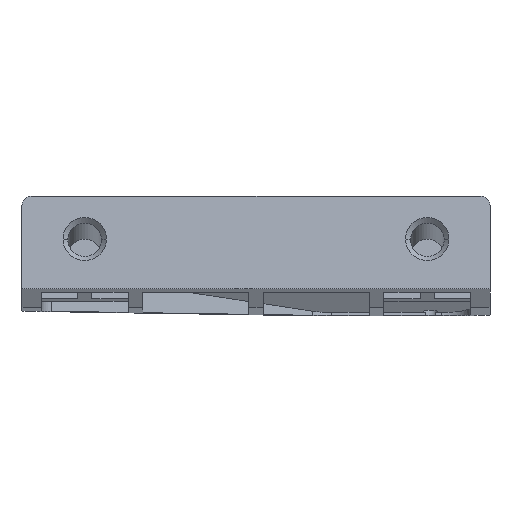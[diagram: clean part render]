
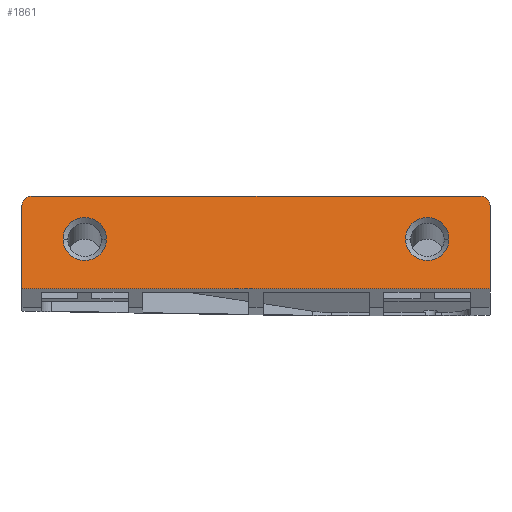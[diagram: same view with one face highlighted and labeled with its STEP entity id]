
A CAD part, front view. The second image highlights one B-rep face of the part: STEP entity #1861.
In plain terms, the highlighted planar face has unit normal (0, -0.985, 0.174).
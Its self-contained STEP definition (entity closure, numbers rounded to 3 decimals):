
#1=CARTESIAN_POINT('',(-94.017,51.083,1475.25));
#2=DIRECTION('',(0.,0.985,-0.174));
#3=DIRECTION('',(-1.,0.,0.));
#4=AXIS2_PLACEMENT_3D('',#1,#2,#3);
#6=DIRECTION('',(1.,0.,0.));
#7=VECTOR('',#6,46.5);
#8=CARTESIAN_POINT('',(-94.017,51.257,1476.235));
#9=LINE('',#8,#7);
#10=CARTESIAN_POINT('',(-47.517,51.083,1475.25));
#11=DIRECTION('',(0.,0.985,-0.174));
#12=DIRECTION('',(0.,0.174,0.985));
#13=AXIS2_PLACEMENT_3D('',#10,#11,#12);
#15=DIRECTION('',(0.,-0.174,-0.985));
#16=VECTOR('',#15,8.75);
#17=CARTESIAN_POINT('',(-46.517,51.083,1475.25));
#18=LINE('',#17,#16);
#19=DIRECTION('',(-1.,0.,0.));
#20=VECTOR('',#19,48.5);
#21=CARTESIAN_POINT('',(-46.517,49.564,1466.633));
#22=LINE('',#21,#20);
#23=DIRECTION('',(0.,0.174,0.985));
#24=VECTOR('',#23,8.75);
#25=CARTESIAN_POINT('',(-95.017,49.564,1466.633));
#26=LINE('',#25,#24);
#27=CARTESIAN_POINT('',(-53.017,50.476,1471.803));
#28=DIRECTION('',(0.,-0.985,0.174));
#29=DIRECTION('',(-1.,0.,0.));
#30=AXIS2_PLACEMENT_3D('',#27,#28,#29);
#32=CARTESIAN_POINT('',(-53.017,50.476,1471.803));
#33=DIRECTION('',(0.,-0.985,0.174));
#34=DIRECTION('',(1.,0.,0.));
#35=AXIS2_PLACEMENT_3D('',#32,#33,#34);
#37=CARTESIAN_POINT('',(-88.517,50.476,1471.803));
#38=DIRECTION('',(0.,-0.985,0.174));
#39=DIRECTION('',(-1.,0.,0.));
#40=AXIS2_PLACEMENT_3D('',#37,#38,#39);
#42=CARTESIAN_POINT('',(-88.517,50.476,1471.803));
#43=DIRECTION('',(0.,-0.985,0.174));
#44=DIRECTION('',(1.,0.,0.));
#45=AXIS2_PLACEMENT_3D('',#42,#43,#44);
#1416=CARTESIAN_POINT('',(-95.017,51.083,1475.25));
#1417=CARTESIAN_POINT('',(-94.017,51.257,1476.235));
#1418=VERTEX_POINT('',#1416);
#1419=VERTEX_POINT('',#1417);
#1420=CARTESIAN_POINT('',(-47.517,51.257,1476.235));
#1421=VERTEX_POINT('',#1420);
#1422=CARTESIAN_POINT('',(-46.517,51.083,1475.25));
#1423=VERTEX_POINT('',#1422);
#1424=CARTESIAN_POINT('',(-46.517,49.564,1466.633));
#1425=VERTEX_POINT('',#1424);
#1426=CARTESIAN_POINT('',(-95.017,49.564,1466.633));
#1427=VERTEX_POINT('',#1426);
#1428=CARTESIAN_POINT('',(-55.267,50.476,1471.803));
#1429=CARTESIAN_POINT('',(-50.767,50.476,1471.803));
#1430=VERTEX_POINT('',#1428);
#1431=VERTEX_POINT('',#1429);
#1432=CARTESIAN_POINT('',(-90.767,50.476,1471.803));
#1433=CARTESIAN_POINT('',(-86.267,50.476,1471.803));
#1434=VERTEX_POINT('',#1432);
#1435=VERTEX_POINT('',#1433);
#1830=CARTESIAN_POINT('',(0.,-202.74,35.748));
#1831=DIRECTION('',(0.,0.985,-0.174));
#1832=DIRECTION('',(-1.,0.,0.));
#1833=AXIS2_PLACEMENT_3D('',#1830,#1831,#1832);
#1834=PLANE('',#1833);
#1836=ORIENTED_EDGE('',*,*,#1835,.T.);
#1838=ORIENTED_EDGE('',*,*,#1837,.T.);
#1840=ORIENTED_EDGE('',*,*,#1839,.T.);
#1842=ORIENTED_EDGE('',*,*,#1841,.T.);
#1844=ORIENTED_EDGE('',*,*,#1843,.T.);
#1846=ORIENTED_EDGE('',*,*,#1845,.T.);
#1847=EDGE_LOOP('',(#1836,#1838,#1840,#1842,#1844,#1846));
#1848=FACE_OUTER_BOUND('',#1847,.F.);
#1850=ORIENTED_EDGE('',*,*,#1849,.T.);
#1852=ORIENTED_EDGE('',*,*,#1851,.T.);
#1853=EDGE_LOOP('',(#1850,#1852));
#1854=FACE_BOUND('',#1853,.F.);
#1856=ORIENTED_EDGE('',*,*,#1855,.T.);
#1858=ORIENTED_EDGE('',*,*,#1857,.T.);
#1859=EDGE_LOOP('',(#1856,#1858));
#1860=FACE_BOUND('',#1859,.F.);
#1861=ADVANCED_FACE('',(#1848,#1854,#1860),#1834,.F.);
#5=CIRCLE('',#4,1.);
#14=CIRCLE('',#13,1.);
#31=CIRCLE('',#30,2.25);
#36=CIRCLE('',#35,2.25);
#41=CIRCLE('',#40,2.25);
#46=CIRCLE('',#45,2.25);
#1835=EDGE_CURVE('',#1418,#1419,#5,.T.);
#1837=EDGE_CURVE('',#1419,#1421,#9,.T.);
#1839=EDGE_CURVE('',#1421,#1423,#14,.T.);
#1841=EDGE_CURVE('',#1423,#1425,#18,.T.);
#1843=EDGE_CURVE('',#1425,#1427,#22,.T.);
#1845=EDGE_CURVE('',#1427,#1418,#26,.T.);
#1849=EDGE_CURVE('',#1430,#1431,#31,.T.);
#1851=EDGE_CURVE('',#1431,#1430,#36,.T.);
#1855=EDGE_CURVE('',#1434,#1435,#41,.T.);
#1857=EDGE_CURVE('',#1435,#1434,#46,.T.);
